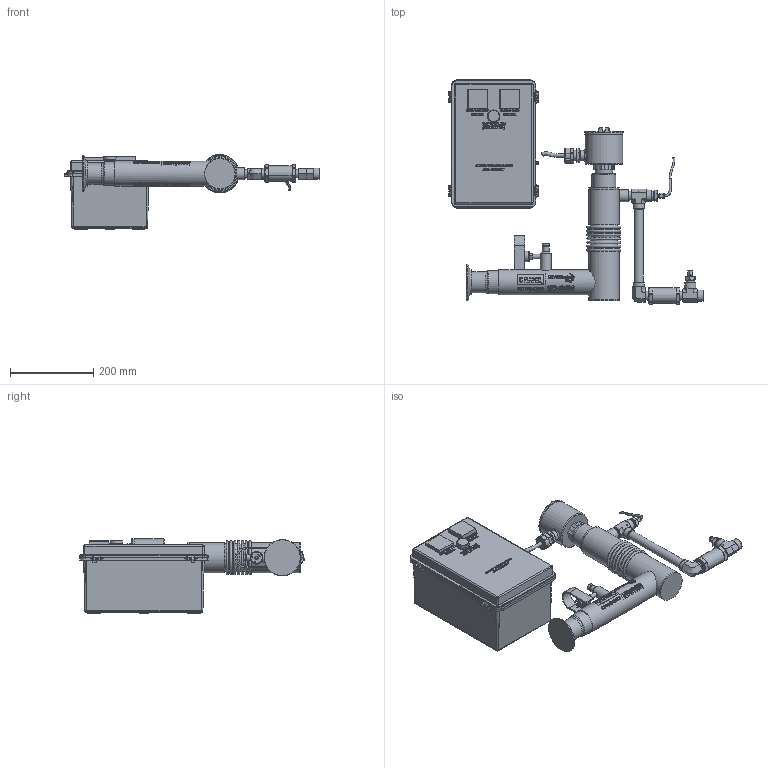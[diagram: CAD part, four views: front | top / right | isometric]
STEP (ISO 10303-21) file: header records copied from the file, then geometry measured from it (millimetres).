
FILE_DESCRIPTION (( 'STEP AP203' ), '1' );
FILE_NAME ('CA00610-TF & CA00611-TF.step', '2025-12-17T20:09:04', ( '' ), ( '' ), 'SwSTEP 2.0', 'SolidWorks 2023', '' );
FILE_SCHEMA (( 'CONFIG_CONTROL_DESIGN' ));
Products named in the file (1): CA00610-TF & CA00611-TF
Bounding box: 611.41 x 539.74 x 180.05 mm (x, y, z)
Volume: 4051956.1 mm3; surface area: 928320.7 mm2
Topology: 118 solids, 120 shells, 3878 faces, 9621 edges, 6214 vertices
Faces by surface type: plane 2268, cylinder 748, bspline 443, cone 206, torus 158, sphere 55
Full cylindrical faces by diameter (mm): 0.896 x2, 0.982 x2, 1.067 x2, 1.223 x2, 1.381 x2, 1.78 x2, 1.842 x2, 1.935 x4, 2.045 x2, 2.179 x2, 2.284 x2, 2.405 x2, 2.744 x2, 3.05 x2, 3.302 x2, 3.322 x4, 3.706 x2, 4 x12, 4.031 x2, 4.18 x2, 4.318 x2, 4.578 x2, 4.826 x4, 5.113 x2, 5.5 x2, 5.539 x2, 5.7 x2, 6.288 x2, 6.45 x2, 7.722 x1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
Entity records: 159480 total; most frequent: CARTESIAN_POINT 74136, ORIENTED_EDGE 18390, DIRECTION 15524, EDGE_CURVE 9195, VERTEX_POINT 6119, VECTOR 5400, LINE 5400, AXIS2_PLACEMENT_3D 5062
